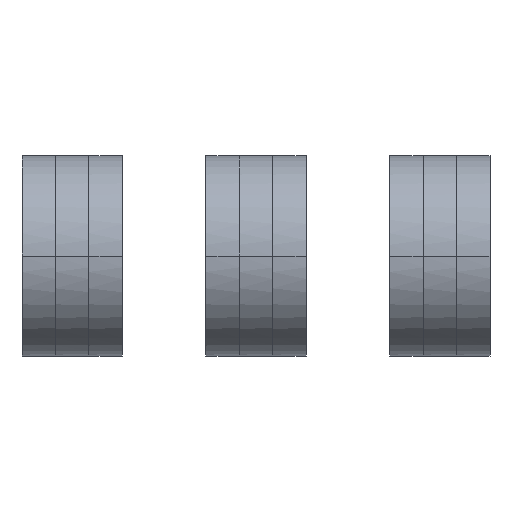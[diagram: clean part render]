
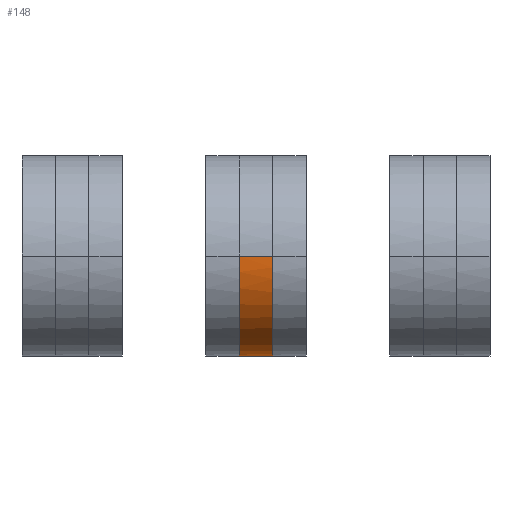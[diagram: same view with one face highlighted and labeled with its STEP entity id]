
A CAD part, front view. The second image highlights one B-rep face of the part: STEP entity #148.
In plain terms, the highlighted free-form (B-spline) face has degree [1, 2] with [2, 9] control points.
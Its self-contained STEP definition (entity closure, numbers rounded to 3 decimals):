
#51=B_SPLINE_CURVE_WITH_KNOTS('',1,(#461,#462),.UNSPECIFIED.,.F.,.F.,(2,
2),(0.,1.),.UNSPECIFIED.);
#52=B_SPLINE_CURVE_WITH_KNOTS('',1,(#463,#464),.UNSPECIFIED.,.F.,.F.,(2,
2),(0.,1.),.UNSPECIFIED.);
#53=B_SPLINE_CURVE_WITH_KNOTS('',1,(#470,#471),.UNSPECIFIED.,.F.,.F.,(2,
2),(1.,4.142),.UNSPECIFIED.);
#54=B_SPLINE_CURVE_WITH_KNOTS('',1,(#472,#473),.UNSPECIFIED.,.F.,.F.,(2,
2),(4.142,5.142),.UNSPECIFIED.);
#55=B_SPLINE_CURVE_WITH_KNOTS('',1,(#474,#475),.UNSPECIFIED.,.F.,.F.,(2,
2),(4.142,5.142),.UNSPECIFIED.);
#56=B_SPLINE_CURVE_WITH_KNOTS('',1,(#481,#482),.UNSPECIFIED.,.F.,.F.,(2,
2),(5.142,8.283),.UNSPECIFIED.);
#75=(
BOUNDED_SURFACE()
B_SPLINE_SURFACE(1,2,((#439,#440,#441,#442,#443,#444,#445,#446,#447),(#448,
#449,#450,#451,#452,#453,#454,#455,#456)),.UNSPECIFIED.,.F.,.F.,.F.)
B_SPLINE_SURFACE_WITH_KNOTS((2,2),(3,2,2,2,3),(0.,1.),(0.,1.571,
3.142,4.712,6.283),.UNSPECIFIED.)
GEOMETRIC_REPRESENTATION_ITEM()
RATIONAL_B_SPLINE_SURFACE(((1.,0.707,1.,0.707,1.,
0.707,1.,0.707,1.),(1.,0.707,1.,0.707,
1.,0.707,1.,0.707,1.)))
REPRESENTATION_ITEM('')
SURFACE()
);
#148=ADVANCED_FACE('',(#156),#75,.T.);
#156=FACE_OUTER_BOUND('',#163,.T.);
#163=EDGE_LOOP('',(#171,#172,#173,#174));
#171=ORIENTED_EDGE('',*,*,#251,.T.);
#172=ORIENTED_EDGE('',*,*,#252,.T.);
#173=ORIENTED_EDGE('',*,*,#253,.T.);
#174=ORIENTED_EDGE('',*,*,#254,.T.);
#191=PCURVE('',#75,#211);
#192=PCURVE('',#75,#212);
#193=PCURVE('',#75,#213);
#194=PCURVE('',#75,#214);
#211=DEFINITIONAL_REPRESENTATION('',(#52),#665);
#212=DEFINITIONAL_REPRESENTATION('',(#53),#665);
#213=DEFINITIONAL_REPRESENTATION('',(#55),#665);
#214=DEFINITIONAL_REPRESENTATION('',(#56),#665);
#231=SURFACE_CURVE('',#51,(#191),.PCURVE_S1.);
#232=SURFACE_CURVE('',#273,(#192),.PCURVE_S1.);
#233=SURFACE_CURVE('',#54,(#193),.PCURVE_S1.);
#234=SURFACE_CURVE('',#274,(#194),.PCURVE_S1.);
#251=EDGE_CURVE('',#287,#288,#231,.T.);
#252=EDGE_CURVE('',#288,#289,#232,.T.);
#253=EDGE_CURVE('',#289,#290,#233,.T.);
#254=EDGE_CURVE('',#290,#287,#234,.T.);
#273=(
BOUNDED_CURVE()
B_SPLINE_CURVE(2,(#465,#466,#467,#468,#469),.UNSPECIFIED.,.F.,.F.)
B_SPLINE_CURVE_WITH_KNOTS((3,2,3),(1.,2.571,4.142),
 .UNSPECIFIED.)
CURVE()
GEOMETRIC_REPRESENTATION_ITEM()
RATIONAL_B_SPLINE_CURVE((1.,0.707,1.,0.707,1.))
REPRESENTATION_ITEM('')
);
#274=(
BOUNDED_CURVE()
B_SPLINE_CURVE(2,(#476,#477,#478,#479,#480),.UNSPECIFIED.,.F.,.F.)
B_SPLINE_CURVE_WITH_KNOTS((3,2,3),(5.142,6.712,8.283),
 .UNSPECIFIED.)
CURVE()
GEOMETRIC_REPRESENTATION_ITEM()
RATIONAL_B_SPLINE_CURVE((1.,0.707,1.,0.707,1.))
REPRESENTATION_ITEM('')
);
#287=VERTEX_POINT('',#457);
#288=VERTEX_POINT('',#458);
#289=VERTEX_POINT('',#459);
#290=VERTEX_POINT('',#460);
#439=CARTESIAN_POINT('',(0.,6.,0.));
#440=CARTESIAN_POINT('',(0.,6.,6.));
#441=CARTESIAN_POINT('',(0.,0.,6.));
#442=CARTESIAN_POINT('',(0.,-6.,6.));
#443=CARTESIAN_POINT('',(0.,-6.,0.));
#444=CARTESIAN_POINT('',(0.,-6.,-6.));
#445=CARTESIAN_POINT('',(0.,0.,-6.));
#446=CARTESIAN_POINT('',(0.,6.,-6.));
#447=CARTESIAN_POINT('',(0.,6.,0.));
#448=CARTESIAN_POINT('',(-2.,6.,0.));
#449=CARTESIAN_POINT('',(-2.,6.,6.));
#450=CARTESIAN_POINT('',(-2.,0.,6.));
#451=CARTESIAN_POINT('',(-2.,-6.,6.));
#452=CARTESIAN_POINT('',(-2.,-6.,0.));
#453=CARTESIAN_POINT('',(-2.,-6.,-6.));
#454=CARTESIAN_POINT('',(-2.,0.,-6.));
#455=CARTESIAN_POINT('',(-2.,6.,-6.));
#456=CARTESIAN_POINT('',(-2.,6.,0.));
#457=CARTESIAN_POINT('',(-2.,6.,0.));
#458=CARTESIAN_POINT('',(0.,6.,0.));
#459=CARTESIAN_POINT('',(0.,-6.,0.));
#460=CARTESIAN_POINT('',(-2.,-6.,0.));
#461=CARTESIAN_POINT('',(-2.,6.,0.));
#462=CARTESIAN_POINT('',(0.,6.,0.));
#463=CARTESIAN_POINT('',(1.,6.283));
#464=CARTESIAN_POINT('',(0.,6.283));
#465=CARTESIAN_POINT('',(0.,6.,0.));
#466=CARTESIAN_POINT('',(0.,6.,-6.));
#467=CARTESIAN_POINT('',(0.,0.,-6.));
#468=CARTESIAN_POINT('',(0.,-6.,-6.));
#469=CARTESIAN_POINT('',(0.,-6.,0.));
#470=CARTESIAN_POINT('',(0.,6.283));
#471=CARTESIAN_POINT('',(0.,3.142));
#472=CARTESIAN_POINT('',(0.,-6.,0.));
#473=CARTESIAN_POINT('',(-2.,-6.,0.));
#474=CARTESIAN_POINT('',(0.,3.142));
#475=CARTESIAN_POINT('',(1.,3.142));
#476=CARTESIAN_POINT('',(-2.,-6.,0.));
#477=CARTESIAN_POINT('',(-2.,-6.,-6.));
#478=CARTESIAN_POINT('',(-2.,0.,-6.));
#479=CARTESIAN_POINT('',(-2.,6.,-6.));
#480=CARTESIAN_POINT('',(-2.,6.,0.));
#481=CARTESIAN_POINT('',(1.,3.142));
#482=CARTESIAN_POINT('',(1.,6.283));
#665=(
GEOMETRIC_REPRESENTATION_CONTEXT(2)
PARAMETRIC_REPRESENTATION_CONTEXT()
REPRESENTATION_CONTEXT('pspace','')
);
